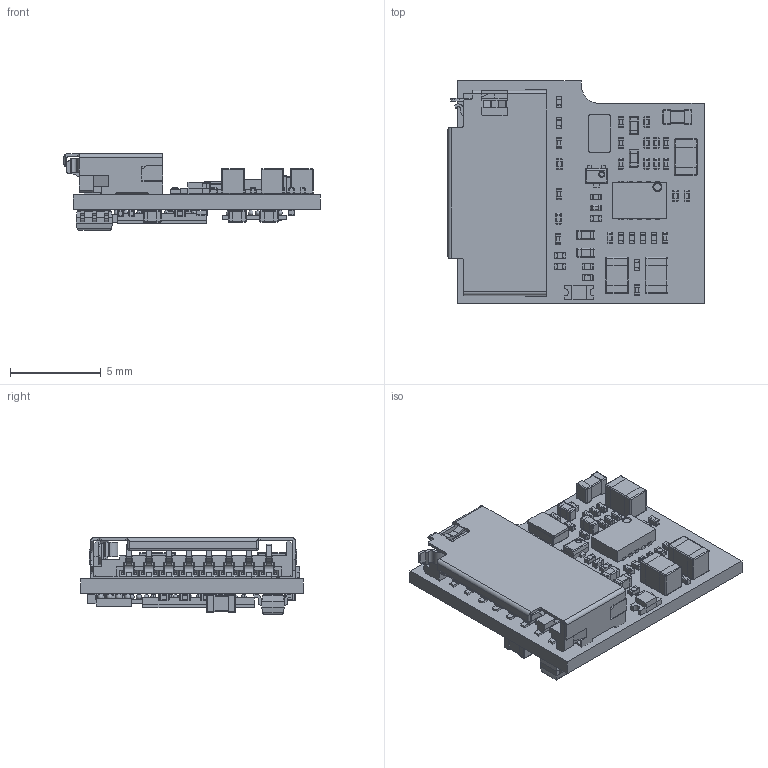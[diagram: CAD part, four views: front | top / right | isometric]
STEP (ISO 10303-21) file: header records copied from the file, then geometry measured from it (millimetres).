
FILE_DESCRIPTION(('KiCad electronic assembly'),'2;1');
FILE_NAME('Miniscope-v4-Wire-Free.step','2021-05-24T20:56:38',( 'An Author'),('A Company'),'Open CASCADE STEP processor 6.9', 'KiCad to STEP converter','Unknown');
FILE_SCHEMA(('AUTOMOTIVE_DESIGN { 1 0 10303 214 1 1 1 1 }'));
Length unit declared in the file: millimetre
Products named in the file (32): Open CASCADE STEP translator 6.9 1; R_0201_0603Metric_ERJ_L; COMPOUND; C_0201_0603Metric_L; SOT_23-5P65_210X110L36X22L; C_0402_1005Metric_L; L_0603_1608Metric_L; BGA88CP50_8X11_493X613X75B25; 475710001; SON_11_P50_300X200X80L40X25T239X64L; C_0805_2012Metric_L; WLCSP64_3P593X3P513X0P533_VS_MCH; BGA-16_1.92x1.92mm_Layout4x4_P0.5mm; SOLID; TRXSOFL3P40_120X120X55L29X21; Crystal_SMD_MicroCrystal_CC8V-T1A-2Pin_2.0x1.2mm; TRXDFN3_101X61X53L25X15; LED_SC80X160X65L40L
Assembly tree (92 placements, depth 3):
  Open CASCADE STEP translator 6.9 1
    R_0201_0603Metric_ERJ_L  x16
      COMPOUND
    C_0201_0603Metric_L  x35
      COMPOUND
    SOT_23-5P65_210X110L36X22L
      COMPOUND
    C_0402_1005Metric_L  x9
      COMPOUND
    L_0603_1608Metric_L  x2
      COMPOUND
    BGA88CP50_8X11_493X613X75B25  x2
      COMPOUND
    475710001
      COMPOUND
    SON_11_P50_300X200X80L40X25T239X64L
      COMPOUND
    C_0805_2012Metric_L  x3
      COMPOUND
    WLCSP64_3P593X3P513X0P533_VS_MCH
      COMPOUND
    BGA-16_1.92x1.92mm_Layout4x4_P0.5mm
      SOLID
    TRXSOFL3P40_120X120X55L29X21
      COMPOUND
    Crystal_SMD_MicroCrystal_CC8V-T1A-2Pin_2.0x1.2mm
      SOLID
    TRXDFN3_101X61X53L25X15
      COMPOUND
    LED_SC80X160X65L40L
      COMPOUND
    SOLID
Bounding box: 14.1 x 12.25 x 4.21 mm (x, y, z)
Volume: 247.8 mm3; surface area: 1413.4 mm2
Topology: 490 solids, 490 shells, 5021 faces, 12427 edges, 7405 vertices
Faces by surface type: plane 2393, cylinder 1671, sphere 950, torus 7
Full cylindrical faces by diameter (mm): 0.177 x1, 0.4 x1
Entity records: 114601 total; most frequent: CARTESIAN_POINT 27070, DIRECTION 15175, LINE 10043, VECTOR 10043, ORIENTED_EDGE 7858, PCURVE 7858, DEFINITIONAL_REPRESENTATION 7858, EDGE_CURVE 3929
